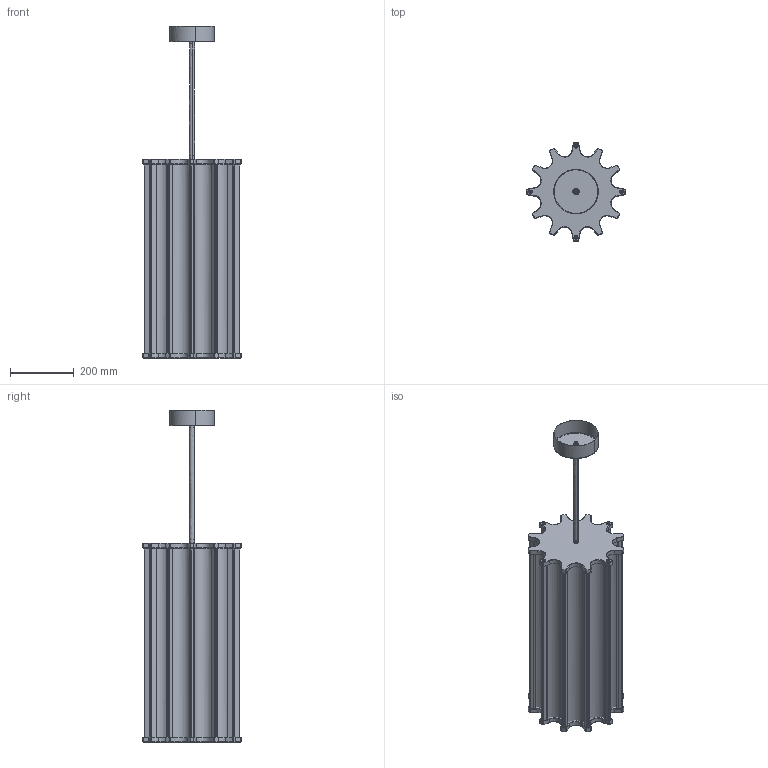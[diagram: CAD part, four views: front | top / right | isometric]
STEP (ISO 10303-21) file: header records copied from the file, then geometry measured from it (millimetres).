
FILE_DESCRIPTION(/* description */ (''),/* implementation_level */ '2;1');
FILE_NAME(/* name */ 'L148__~1',/* time_stamp */ '2024-07-03T14:46:37+02:00',/* author */ (''),/* organization */ (''),/* preprocessor_version */ 'ST-DEVELOPER v16.5',/* originating_system */ '',/* authorisation */ '');
FILE_SCHEMA (('AUTOMOTIVE_DESIGN'));
Length unit declared in the file: millimetre
Products named in the file (1): Document
Bounding box: 308.77 x 308.77 x 1044.5 mm (x, y, z)
Volume: 4751603.6 mm3; surface area: 2373893.8 mm2
Topology: 37 solids, 37 shells, 1675 faces, 3966 edges, 2223 vertices
Faces by surface type: bspline 1014, plane 661
Entity records: 62089 total; most frequent: CARTESIAN_POINT 38500, ORIENTED_EDGE 7648, EDGE_CURVE 3824, B_SPLINE_CURVE_WITH_KNOTS 2548, VERTEX_POINT 2223, EDGE_LOOP 1693, ADVANCED_FACE 1675, FACE_OUTER_BOUND 1675
